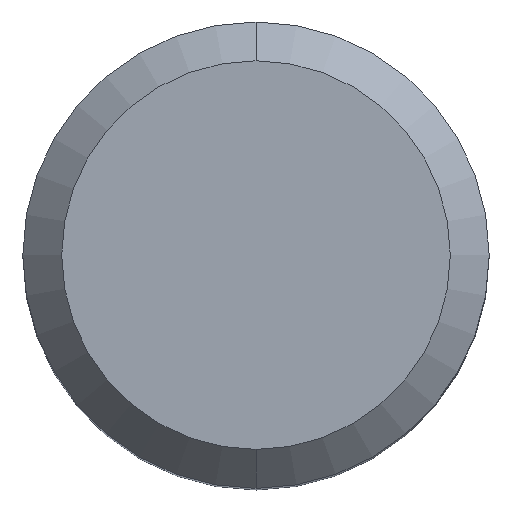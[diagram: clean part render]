
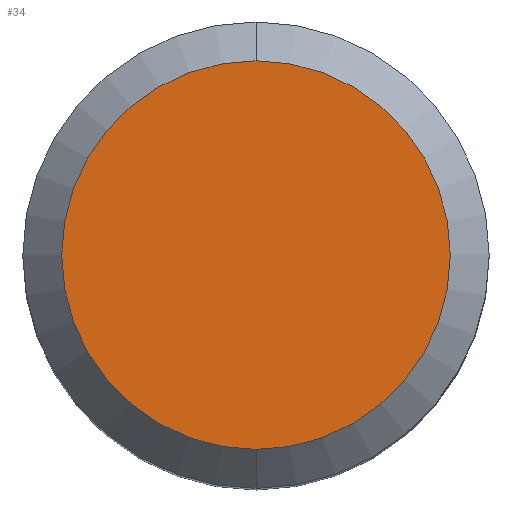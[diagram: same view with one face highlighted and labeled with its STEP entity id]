
A CAD part, top view. The second image highlights one B-rep face of the part: STEP entity #34.
In plain terms, the highlighted planar face has unit normal (0, 0, 1).
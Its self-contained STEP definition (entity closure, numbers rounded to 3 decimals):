
#31=PLANE('',#148);
#34=ADVANCED_FACE('',(#42),#31,.T.);
#42=FACE_OUTER_BOUND('',#50,.F.);
#50=EDGE_LOOP('',(#61,#62));
#61=ORIENTED_EDGE('',*,*,#114,.F.);
#62=ORIENTED_EDGE('',*,*,#111,.F.);
#111=EDGE_CURVE('',#132,#131,#125,.T.);
#114=EDGE_CURVE('',#131,#132,#128,.T.);
#125=CIRCLE('',#143,1.25);
#128=CIRCLE('',#146,1.25);
#131=VERTEX_POINT('',#201);
#132=VERTEX_POINT('',#202);
#143=AXIS2_PLACEMENT_3D('',#211,#166,#167);
#146=AXIS2_PLACEMENT_3D('',#214,#172,#173);
#148=AXIS2_PLACEMENT_3D('',#222,#182,#183);
#166=DIRECTION('',(0.,0.,1.));
#167=DIRECTION('',(0.,1.,0.));
#172=DIRECTION('',(0.,0.,1.));
#173=DIRECTION('',(0.,-1.,0.));
#182=DIRECTION('',(0.,0.,1.));
#183=DIRECTION('',(-1.,0.,0.));
#201=CARTESIAN_POINT('',(-5.5,43.55,163.55));
#202=CARTESIAN_POINT('',(-5.5,46.05,163.55));
#211=CARTESIAN_POINT('',(-5.5,44.8,163.55));
#214=CARTESIAN_POINT('',(-5.5,44.8,163.55));
#222=CARTESIAN_POINT('',(-4.,46.3,163.55));
